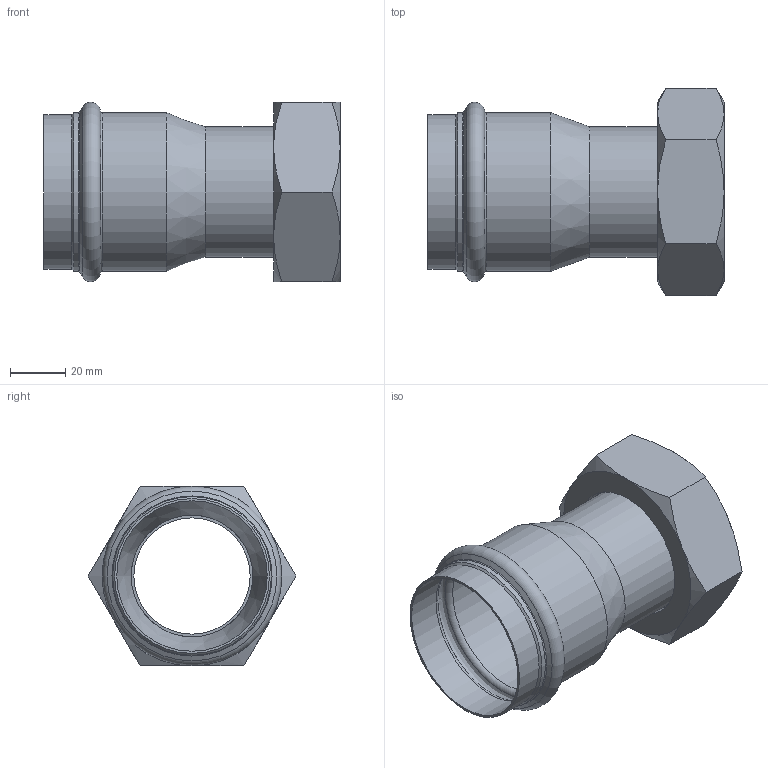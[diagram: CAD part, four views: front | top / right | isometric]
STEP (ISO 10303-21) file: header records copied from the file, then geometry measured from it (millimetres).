
FILE_DESCRIPTION((''),'2;1');
FILE_NAME('G:\Nirosan-Schmiedefeld\Technics\CAD\001 Serie 9.000\054\69359m542h(0).stp','2018-10-16T11:06:40',('herberg'),(''),'Autodesk Inventor 2009','Autodesk Inventor 2009','');
FILE_SCHEMA(('AUTOMOTIVE_DESIGN { 1 0 10303 214 1 1 1 1 }'));
Length unit declared in the file: millimetre
Products named in the file (5): 69359m542h(0); 69HMU54p(0); R542(0); 69MS542p(0); FD_5542_EPDM(0)
Assembly tree (4 placements, depth 2):
  69359m542h(0)
    69HMU54p(0)
    R542(0)
    69MS542p(0)
    FD_5542_EPDM(0)
Bounding box: 107 x 75.06 x 65 mm (x, y, z)
Volume: 56992.7 mm3; surface area: 48916.1 mm2
Topology: 4 solids, 4 shells, 56 faces, 108 edges, 62 vertices
Faces by surface type: cone 19, plane 15, cylinder 12, bspline 7, torus 3
Full cylindrical faces by diameter (mm): 42 x1, 44 x2, 47 x2, 54.35 x2, 55 x2, 55.95 x1, 57.35 x2
Entity records: 1622 total; most frequent: CARTESIAN_POINT 502, DIRECTION 220, ORIENTED_EDGE 158, AXIS2_PLACEMENT_3D 107, EDGE_LOOP 94, EDGE_CURVE 79, VERTEX_POINT 61, FACE_OUTER_BOUND 56
